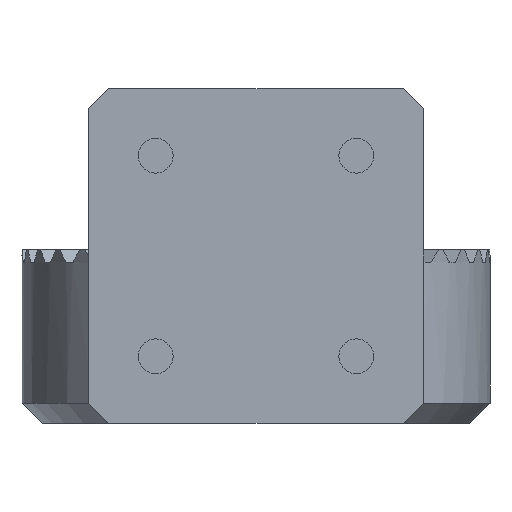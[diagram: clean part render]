
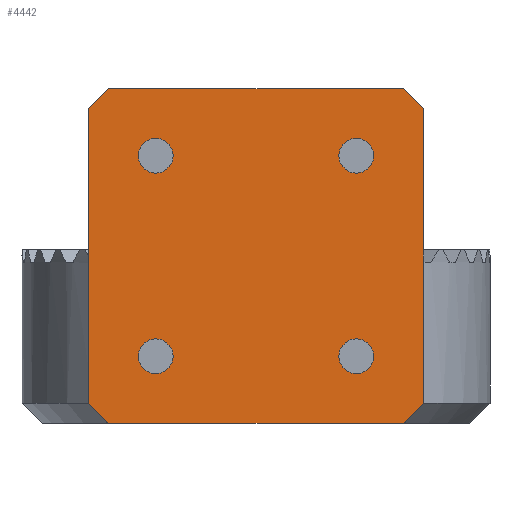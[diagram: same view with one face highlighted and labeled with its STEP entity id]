
A CAD part, front view. The second image highlights one B-rep face of the part: STEP entity #4442.
In plain terms, the highlighted planar face has unit normal (0, -1, 0).
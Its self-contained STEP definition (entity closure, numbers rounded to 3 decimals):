
#274=FACE_BOUND('',#769,.T.);
#275=FACE_BOUND('',#770,.T.);
#276=FACE_BOUND('',#771,.T.);
#277=FACE_BOUND('',#772,.T.);
#317=PLANE('',#4873);
#533=FACE_OUTER_BOUND('',#768,.T.);
#768=EDGE_LOOP('',(#3377,#3378,#3379,#3380,#3381,#3382,#3383,#3384));
#769=EDGE_LOOP('',(#3385));
#770=EDGE_LOOP('',(#3386));
#771=EDGE_LOOP('',(#3387));
#772=EDGE_LOOP('',(#3388));
#1004=LINE('',#6441,#1344);
#1015=LINE('',#6492,#1355);
#1028=LINE('',#6535,#1368);
#1030=LINE('',#6539,#1370);
#1038=LINE('',#6569,#1378);
#1042=LINE('',#6866,#1382);
#1043=LINE('',#6868,#1383);
#1044=LINE('',#6871,#1384);
#1344=VECTOR('',#5227,10.);
#1355=VECTOR('',#5282,10.);
#1368=VECTOR('',#5329,10.);
#1370=VECTOR('',#5333,10.);
#1378=VECTOR('',#5367,10.);
#1382=VECTOR('',#5667,10.);
#1383=VECTOR('',#5670,10.);
#1384=VECTOR('',#5675,10.);
#1618=CIRCLE('',#4621,2.6);
#1622=CIRCLE('',#4628,2.6);
#1626=CIRCLE('',#4635,2.6);
#1630=CIRCLE('',#4642,2.6);
#1754=VERTEX_POINT('',#6269);
#1758=VERTEX_POINT('',#6282);
#1762=VERTEX_POINT('',#6295);
#1766=VERTEX_POINT('',#6308);
#1808=VERTEX_POINT('',#6439);
#1809=VERTEX_POINT('',#6440);
#1826=VERTEX_POINT('',#6490);
#1827=VERTEX_POINT('',#6491);
#1840=VERTEX_POINT('',#6534);
#1841=VERTEX_POINT('',#6538);
#1849=VERTEX_POINT('',#6567);
#1850=VERTEX_POINT('',#6568);
#2245=EDGE_CURVE('',#1754,#1754,#1618,.T.);
#2251=EDGE_CURVE('',#1758,#1758,#1622,.T.);
#2257=EDGE_CURVE('',#1762,#1762,#1626,.T.);
#2263=EDGE_CURVE('',#1766,#1766,#1630,.T.);
#2326=EDGE_CURVE('',#1808,#1809,#1004,.F.);
#2351=EDGE_CURVE('',#1826,#1827,#1015,.F.);
#2373=EDGE_CURVE('',#1840,#1809,#1028,.T.);
#2375=EDGE_CURVE('',#1840,#1841,#1030,.F.);
#2390=EDGE_CURVE('',#1849,#1850,#1038,.F.);
#2540=EDGE_CURVE('',#1850,#1826,#1042,.F.);
#2541=EDGE_CURVE('',#1827,#1808,#1043,.T.);
#2542=EDGE_CURVE('',#1841,#1849,#1044,.T.);
#3377=ORIENTED_EDGE('',*,*,#2351,.F.);
#3378=ORIENTED_EDGE('',*,*,#2540,.F.);
#3379=ORIENTED_EDGE('',*,*,#2390,.F.);
#3380=ORIENTED_EDGE('',*,*,#2542,.F.);
#3381=ORIENTED_EDGE('',*,*,#2375,.F.);
#3382=ORIENTED_EDGE('',*,*,#2373,.T.);
#3383=ORIENTED_EDGE('',*,*,#2326,.F.);
#3384=ORIENTED_EDGE('',*,*,#2541,.F.);
#3385=ORIENTED_EDGE('',*,*,#2245,.T.);
#3386=ORIENTED_EDGE('',*,*,#2251,.T.);
#3387=ORIENTED_EDGE('',*,*,#2257,.T.);
#3388=ORIENTED_EDGE('',*,*,#2263,.T.);
#4442=ADVANCED_FACE('',(#533,#274,#275,#276,#277),#317,.T.);
#4621=AXIS2_PLACEMENT_3D('',#6270,#5062,#5063);
#4628=AXIS2_PLACEMENT_3D('',#6283,#5078,#5079);
#4635=AXIS2_PLACEMENT_3D('',#6296,#5094,#5095);
#4642=AXIS2_PLACEMENT_3D('',#6309,#5110,#5111);
#4873=AXIS2_PLACEMENT_3D('',#6870,#5673,#5674);
#5062=DIRECTION('center_axis',(0.,1.,0.));
#5063=DIRECTION('ref_axis',(0.,0.,-1.));
#5078=DIRECTION('center_axis',(0.,1.,0.));
#5079=DIRECTION('ref_axis',(0.,0.,-1.));
#5094=DIRECTION('center_axis',(0.,1.,0.));
#5095=DIRECTION('ref_axis',(0.,0.,-1.));
#5110=DIRECTION('center_axis',(0.,1.,0.));
#5111=DIRECTION('ref_axis',(0.,0.,-1.));
#5227=DIRECTION('',(-0.707,0.,0.707));
#5282=DIRECTION('',(-0.707,0.,-0.707));
#5329=DIRECTION('',(0.,0.,1.));
#5333=DIRECTION('',(0.707,0.,0.707));
#5367=DIRECTION('',(0.707,0.,-0.707));
#5667=DIRECTION('',(0.,0.,-1.));
#5670=DIRECTION('',(1.,0.,0.));
#5673=DIRECTION('center_axis',(0.,-1.,0.));
#5674=DIRECTION('ref_axis',(1.,0.,0.));
#5675=DIRECTION('',(-1.,0.,0.));
#6269=CARTESIAN_POINT('',(38.692,2.234,-12.4));
#6270=CARTESIAN_POINT('Origin',(38.692,2.234,-15.));
#6282=CARTESIAN_POINT('',(38.692,2.234,17.6));
#6283=CARTESIAN_POINT('Origin',(38.692,2.234,15.));
#6295=CARTESIAN_POINT('',(68.692,2.234,17.6));
#6296=CARTESIAN_POINT('Origin',(68.692,2.234,15.));
#6308=CARTESIAN_POINT('',(68.692,2.234,-12.4));
#6309=CARTESIAN_POINT('Origin',(68.692,2.234,-15.));
#6439=CARTESIAN_POINT('',(75.692,2.234,25.));
#6440=CARTESIAN_POINT('',(78.692,2.234,22.));
#6441=CARTESIAN_POINT('',(77.192,2.234,23.5));
#6490=CARTESIAN_POINT('',(28.692,2.234,22.));
#6491=CARTESIAN_POINT('',(31.692,2.234,25.));
#6492=CARTESIAN_POINT('',(17.692,2.234,11.));
#6534=CARTESIAN_POINT('',(78.692,2.234,-22.));
#6535=CARTESIAN_POINT('',(78.692,2.234,-25.));
#6538=CARTESIAN_POINT('',(75.692,2.234,-25.));
#6539=CARTESIAN_POINT('',(64.692,2.234,-36.));
#6567=CARTESIAN_POINT('',(31.692,2.234,-25.));
#6568=CARTESIAN_POINT('',(28.692,2.234,-22.));
#6569=CARTESIAN_POINT('',(30.192,2.234,-23.5));
#6866=CARTESIAN_POINT('',(28.692,2.234,-25.));
#6868=CARTESIAN_POINT('',(41.192,2.234,25.));
#6870=CARTESIAN_POINT('Origin',(28.692,2.234,-25.));
#6871=CARTESIAN_POINT('',(5.141,2.234,-25.));
